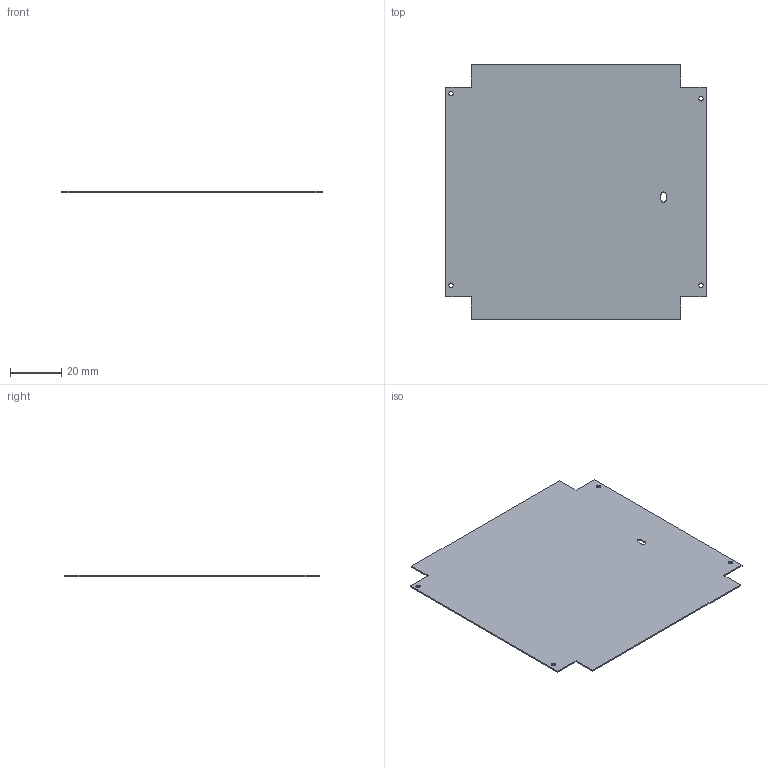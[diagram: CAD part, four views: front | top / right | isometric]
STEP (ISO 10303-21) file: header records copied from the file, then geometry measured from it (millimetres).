
FILE_DESCRIPTION((''),'2;1');
FILE_NAME('SOLAR_CELLS_BOARD_TOP-BOTTOM','2020-03-13T',('g0715'),(''),'PRO/ENGINEER BY PARAMETRIC TECHNOLOGY CORPORATION, 2014090','PRO/ENGINEER BY PARAMETRIC TECHNOLOGY CORPORATION, 2014090','');
FILE_SCHEMA(('CONFIG_CONTROL_DESIGN'));
Length unit declared in the file: millimetre
Products named in the file (1): SOLAR_CELLS_BOARD_TOP-BOTTOM
Bounding box: 102 x 100 x 0.5 mm (x, y, z)
Volume: 4911.9 mm3; surface area: 19865.4 mm2
Topology: 1 solids, 1 shells, 26 faces, 72 edges, 48 vertices
Faces by surface type: plane 16, cylinder 10
Entity records: 894 total; most frequent: CARTESIAN_POINT 146, DIRECTION 144, ORIENTED_EDGE 144, EDGE_CURVE 72, VECTOR 52, LINE 52, VERTEX_POINT 48, AXIS2_PLACEMENT_3D 46
